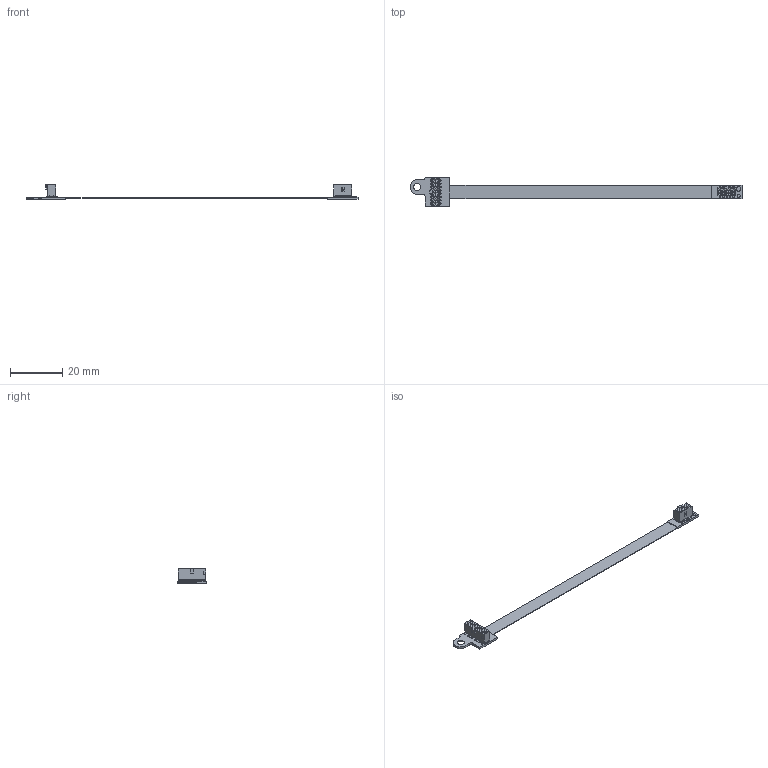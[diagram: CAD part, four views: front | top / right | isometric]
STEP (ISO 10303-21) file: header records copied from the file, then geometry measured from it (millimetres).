
FILE_DESCRIPTION(/* description */ ('VX1927H DAP-IFX FlexPCB for VX154x'),/* implementation_level */ '2;1');
FILE_NAME(/* name */ 'C:\Users\TeamCenterSystem\Documents\Inventor\ASY_000281_CUST_iam.STP',/* time_stamp */ '2024-10-25T09:52:54+02:00',/* author */ ('vista'),/* organization */ (''),/* preprocessor_version */ 'ST-DEVELOPER v18.1',/* originating_system */ 'Autodesk Inventor 2022',/* authorisation */ '');
FILE_SCHEMA (('AUTOMOTIVE_DESIGN { 1 0 10303 214 3 1 1 }'));
Length unit declared in the file: millimetre
Products named in the file (2): ASY_000281_CUST; ASY_000281
Assembly tree (1 placements, depth 2):
  ASY_000281_CUST
    ASY_000281
Bounding box: 126.75 x 11 x 5.58 mm (x, y, z)
Volume: 481.7 mm3; surface area: 2168.4 mm2
Topology: 7 solids, 7 shells, 844 faces, 2251 edges, 1466 vertices
Faces by surface type: plane 653, cylinder 188, bspline 2, cone 1
Full cylindrical faces by diameter (mm): 1.2 x1, 1.8 x1
Entity records: 26635 total; most frequent: CARTESIAN_POINT 4594, ORIENTED_EDGE 4502, DIRECTION 4315, EDGE_CURVE 2251, LINE 1869, VECTOR 1869, VERTEX_POINT 1466, AXIS2_PLACEMENT_3D 1223
